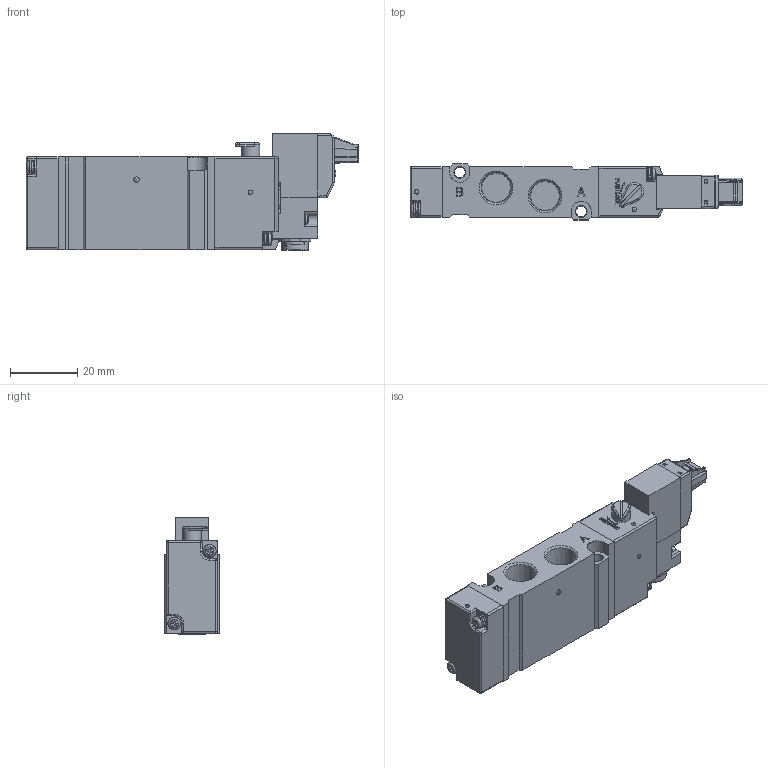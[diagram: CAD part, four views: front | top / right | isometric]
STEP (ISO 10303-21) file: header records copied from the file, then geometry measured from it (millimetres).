
FILE_DESCRIPTION((''),'2;1');
FILE_NAME('W:\技術グループ\Winovation\Winovation Projects\ADEX Valve in-line\ADEX Plus 3D CAD\P2A12RS\P2A12RS25-1P-01_配布用元データ_Shrinkwrap_1.stp','2014-09-24T16:54:25',('HM161442'),(''),'Autodesk Inventor 2013','Autodesk Inventor 2013','');
FILE_SCHEMA(('AUTOMOTIVE_DESIGN { 1 0 10303 214 1 1 1 1 }'));
Length unit declared in the file: millimetre
Products named in the file (1): P2A12RS25-1P-01_配布用元データ_Shrinkwrap_1
Bounding box: 98.55 x 16.6 x 34.6 mm (x, y, z)
Volume: 31641.6 mm3; surface area: 12835.9 mm2
Topology: 1 solids, 1 shells, 1055 faces, 2711 edges, 1701 vertices
Faces by surface type: plane 635, cylinder 209, bspline 74, cone 57, torus 41, sphere 39
Full cylindrical faces by diameter (mm): 1 x1, 1.3 x6, 1.7 x1, 2 x4, 2.15 x2, 2.5 x2, 2.6 x2, 2.7 x3, 2.8 x1, 3.5 x2, 3.8 x4, 4.4 x1, 4.5 x1, 5.5 x1, 8 x1, 8.1 x1
Entity records: 36169 total; most frequent: CARTESIAN_POINT 10611, ORIENTED_EDGE 5086, DIRECTION 4884, EDGE_CURVE 2543, AXIS2_PLACEMENT_3D 1650, VERTEX_POINT 1641, VECTOR 1584, LINE 1584
